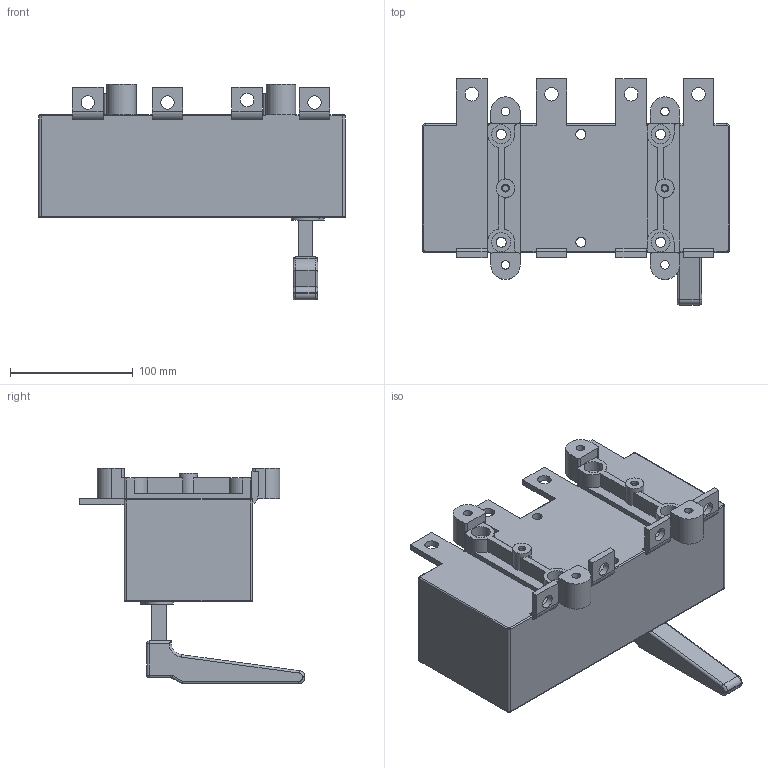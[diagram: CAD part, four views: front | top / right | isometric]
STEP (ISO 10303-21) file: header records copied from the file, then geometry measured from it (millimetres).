
FILE_DESCRIPTION(/* description */ (''),/* implementation_level */ '2;1');
FILE_NAME(/* name */ 'RA630 P3 NA-R.stp',/* time_stamp */ '2021-08-19T08:11:31+02:00',/* author */ (''),/* organization */ (''),/* preprocessor_version */ 'ST-DEVELOPER v18.1',/* originating_system */ 'SIEMENS PLM Software NX 1965',/* authorisation */ '');
FILE_SCHEMA (('AUTOMOTIVE_DESIGN { 1 0 10303 214 3 1 1 1 }'));
Length unit declared in the file: millimetre
Products named in the file (1): RA630 P3 NA-R_stp
Bounding box: 250 x 184.15 x 176 mm (x, y, z)
Volume: 2339811.9 mm3; surface area: 175532.2 mm2
Topology: 1 solids, 1 shells, 260 faces, 681 edges, 432 vertices
Faces by surface type: cylinder 121, plane 117, torus 13, sphere 6, bspline 3
Full cylindrical faces by diameter (mm): 4.8 x2, 6.2 x2, 7 x4, 8.2 x6, 11 x8, 14 x4, 15 x2, 15.5 x4
Entity records: 7926 total; most frequent: DIRECTION 1413, CARTESIAN_POINT 1405, ORIENTED_EDGE 1278, EDGE_CURVE 639, AXIS2_PLACEMENT_3D 520, VERTEX_POINT 428, LINE 373, VECTOR 373
